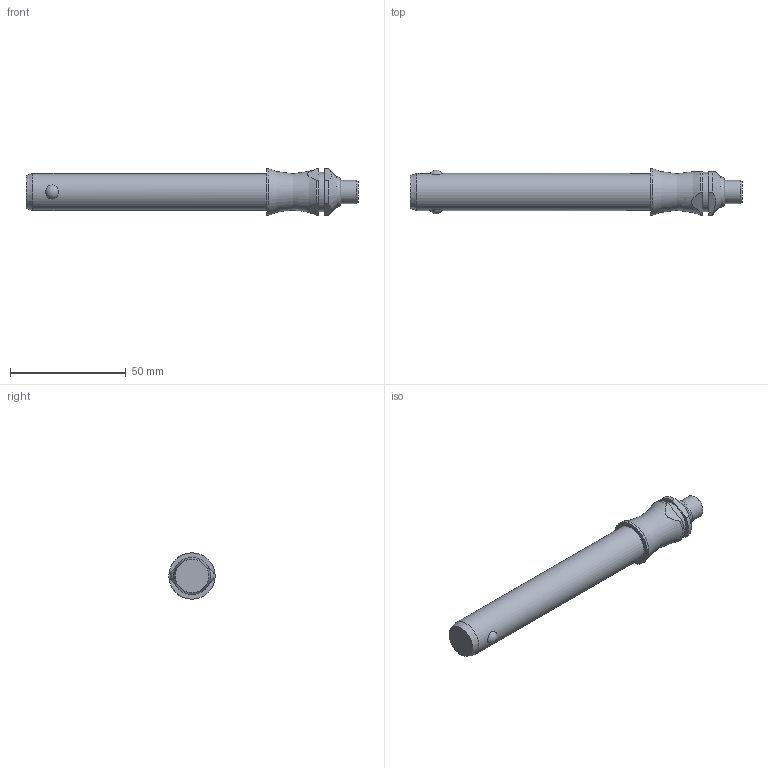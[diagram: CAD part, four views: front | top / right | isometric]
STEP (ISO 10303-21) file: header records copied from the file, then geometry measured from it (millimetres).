
FILE_DESCRIPTION( ( 'STEP AP203' ), '1' );
FILE_NAME( 'C:/Temp/Ganter_Step_05_03_2020/data/3_1/gn113_3/Stainless Steel-Ball lock pin GN 113.3-16-90 (deactivated).stp', '2020-03-12T08:18:57', ( 'License CC BY-ND 4.0' ), ( 'CADENAS' ), ' ', 'PARTsolutions', ' ' );
FILE_SCHEMA( ( 'CONFIG_CONTROL_DESIGN' ) );
Length unit declared in the file: millimetre
Products named in the file (1): _Stainless Steel-Ball lock pin GN 113.3-16-90 (deactivated)
Bounding box: 143.5 x 20 x 20 mm (x, y, z)
Volume: 28859.6 mm3; surface area: 7787.7 mm2
Topology: 1 solids, 1 shells, 28 faces, 60 edges, 39 vertices
Faces by surface type: plane 11, cylinder 10, cone 3, torus 2, sphere 2
Full cylindrical faces by diameter (mm): 10 x1, 16 x1, 17 x1, 20 x1
Entity records: 966 total; most frequent: CARTESIAN_POINT 350, DIRECTION 122, ORIENTED_EDGE 98, AXIS2_PLACEMENT_3D 52, EDGE_CURVE 49, EDGE_LOOP 42, VERTEX_POINT 38, FACE_OUTER_BOUND 34
